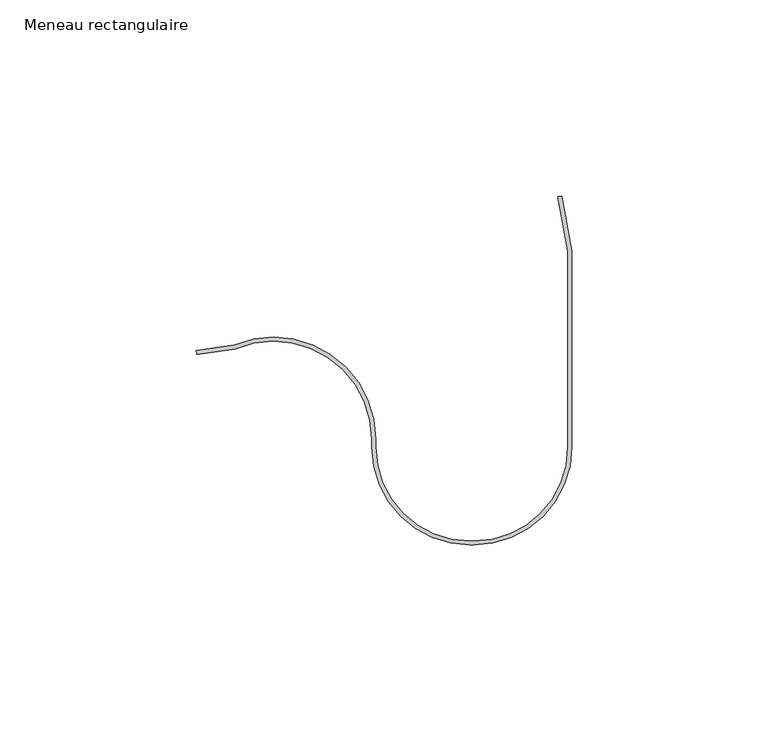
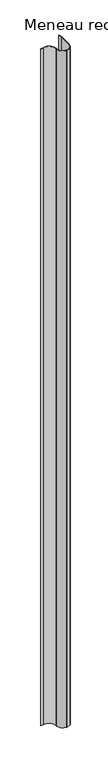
"""IFC4 building model written with IfcOpenShell, lengths in millimetres: member geometry, Meneau rectangulaire : Jonction contre mur Gauche V."""

from ifc_helpers import new_model, si_unit, point, frame, frame_2d, origin, place, context, project, spatial, polyline, circle_curve, trimmed, segment, composite_curve, outline, extrude, source, transform, mapped, element, save


def meneau_rectangulaire_9a4c4fa2(model_context):
    return source(origin(), model_context, "Body", "SweptSolid", [
        extrude(outline(composite_curve([segment(polyline([(-1.0, 25.3470857), (-3.6043568, 39.2133572), (-2.6384309, 39.3947769), (0.0, 25.3470857), (0.0, -24.6529143)]), True, "CONTINUOUS"), segment(trimmed(circle_curve(frame_2d((-25.0, -24.6529143)), 25.0), [point((0.0, -24.6529143))], [point((-25.0, -49.6529143))], False, "CARTESIAN"), True, "CONTINUOUS"), segment(polyline([(-25.0, -49.6529143), (-26.0, -49.6529143)]), True, "CONTINUOUS"), segment(trimmed(circle_curve(frame_2d((-26.0, -24.6529143)), 25.0), [point((-26.0, -49.6529143))], [point((-51.0, -24.6529143))], False, "CARTESIAN"), True, "CONTINUOUS"), segment(polyline([(-51.0, -24.6529143), (-51.0, -22.6317013)]), True, "CONTINUOUS"), segment(trimmed(circle_curve(frame_2d((-76.0, -22.6317013)), 25.0), [point((-51.0, -22.6317013))], [point((-85.7659612, 0.3819034))], True, "CARTESIAN"), True, "CONTINUOUS"), segment(polyline([(-85.7659612, 0.3819034), (-95.6686418, -1.0098276), (-95.8078149, -0.0195595), (-86.0341553, 1.3540388)]), True, "CONTINUOUS"), segment(trimmed(circle_curve(frame_2d((-76.0, -22.6317013)), 26.0), [point((-86.0341553, 1.3540388))], [point((-50.0, -22.6317013))], False, "CARTESIAN"), True, "CONTINUOUS"), segment(polyline([(-50.0, -22.6317013), (-50.0, -24.6529143)]), True, "CONTINUOUS"), segment(trimmed(circle_curve(frame_2d((-26.0, -24.6529143)), 24.0), [point((-50.0, -24.6529143))], [point((-26.0, -48.6529143))], True, "CARTESIAN"), True, "CONTINUOUS"), segment(polyline([(-26.0, -48.6529143), (-25.0, -48.6529143)]), True, "CONTINUOUS"), segment(trimmed(circle_curve(frame_2d((-25.0, -24.6529143)), 24.0), [point((-25.0, -48.6529143))], [point((-1.0, -24.6529143))], True, "CARTESIAN"), True, "CONTINUOUS"), segment(polyline([(-1.0, -24.6529143), (-1.0, 25.3470857)]), True, "CONTINUOUS")], self_intersect=False)), frame((0.0, 0.0, -2761.1451617), z_axis=(0.0, 0.0, 1.0), x_axis=(1.0, 0.0, 0.0)), (0.0, 0.0, 1.0), 2761.1451617),
    ])


if __name__ == "__main__":
    model = new_model("IFC4")
    model_context = context("Model", 3, world=origin())
    ifc_project = project(units=[si_unit("LENGTHUNIT", "METRE", prefix="MILLI")], contexts=[model_context])
    site = spatial("IfcSite", under=ifc_project)
    building = spatial("IfcBuilding", under=site)
    placement = place(None, origin())
    meneau_rectangulaire_shape = meneau_rectangulaire_9a4c4fa2(model_context)
    element("IfcMember", 1, ObjectType="Meneau rectangulaire : Jonction contre mur Gauche V", at=placement, inside=building, context=model_context, shape_type="MappedRepresentation", body=[
        mapped(meneau_rectangulaire_shape, transform((0.0, 0.0, 0.0), x_axis=(1.0, 0.0, 0.0), y_axis=(0.0, 1.0, 0.0), z_axis=(0.0, 0.0, 1.0))),
    ])
    save(model, "model.ifc")
